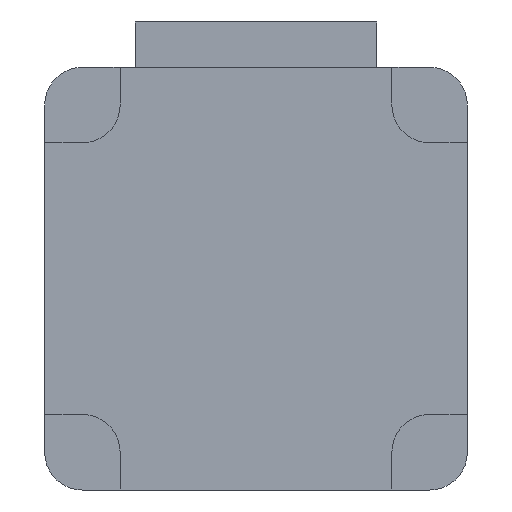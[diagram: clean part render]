
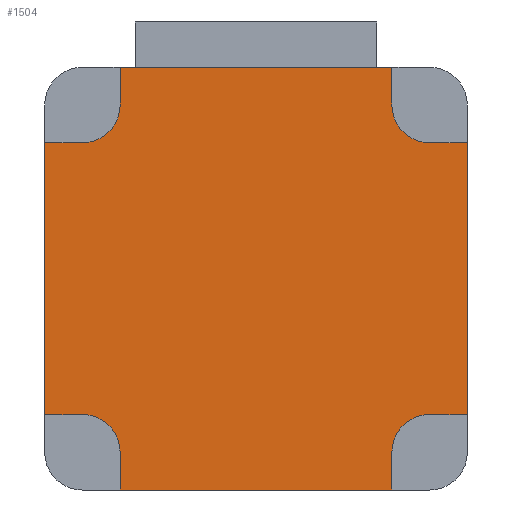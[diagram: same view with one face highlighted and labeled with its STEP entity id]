
A CAD part, front view. The second image highlights one B-rep face of the part: STEP entity #1504.
In plain terms, the highlighted planar face has unit normal (0, -1, 0).
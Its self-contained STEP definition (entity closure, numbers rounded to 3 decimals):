
#9 = VECTOR ( 'NONE', #521, 1000. ) ;
#13 = CARTESIAN_POINT ( 'NONE',  ( 0., -56., -28. ) ) ;
#22 = CARTESIAN_POINT ( 'NONE',  ( 2.5, -56., -5. ) ) ;
#30 = DIRECTION ( 'NONE',  ( -1., 0., 0. ) ) ;
#40 = LINE ( 'NONE', #823, #290 ) ;
#68 = LINE ( 'NONE', #13, #740 ) ;
#70 = CARTESIAN_POINT ( 'NONE',  ( 0., -56., -23. ) ) ;
#75 = LINE ( 'NONE', #445, #708 ) ;
#78 = DIRECTION ( 'NONE',  ( -1., 0., 0. ) ) ;
#82 = CARTESIAN_POINT ( 'NONE',  ( 28., -56., -23. ) ) ;
#96 = VECTOR ( 'NONE', #295, 1000. ) ;
#99 = DIRECTION ( 'NONE',  ( 0., 0., 1. ) ) ;
#103 = DIRECTION ( 'NONE',  ( 0., -1., 0. ) ) ;
#109 = CARTESIAN_POINT ( 'NONE',  ( 25.5, -56., -25.5 ) ) ;
#149 = VERTEX_POINT ( 'NONE', #1145 ) ;
#155 = LINE ( 'NONE', #1084, #1434 ) ;
#163 = VERTEX_POINT ( 'NONE', #1139 ) ;
#174 = ORIENTED_EDGE ( 'NONE', *, *, #885, .F. ) ;
#222 = ORIENTED_EDGE ( 'NONE', *, *, #924, .F. ) ;
#230 = CARTESIAN_POINT ( 'NONE',  ( 5., -56., -2.5 ) ) ;
#238 = ORIENTED_EDGE ( 'NONE', *, *, #775, .F. ) ;
#239 = DIRECTION ( 'NONE',  ( 0., 0., -1. ) ) ;
#245 = CARTESIAN_POINT ( 'NONE',  ( 23., -56., -25.5 ) ) ;
#248 = EDGE_LOOP ( 'NONE', ( #760, #676, #1228, #238, #495, #837, #1220, #292, #174, #397, #222, #443, #696, #735, #367, #351 ) ) ;
#250 = LINE ( 'NONE', #82, #889 ) ;
#257 = CARTESIAN_POINT ( 'NONE',  ( 28., -56., 0. ) ) ;
#288 = CIRCLE ( 'NONE', #576, 2.5 ) ;
#290 = VECTOR ( 'NONE', #831, 1000. ) ;
#292 = ORIENTED_EDGE ( 'NONE', *, *, #856, .F. ) ;
#295 = DIRECTION ( 'NONE',  ( 0., 0., -1. ) ) ;
#322 = EDGE_CURVE ( 'NONE', #725, #1356, #68, .T. ) ;
#332 = LINE ( 'NONE', #245, #1000 ) ;
#333 = LINE ( 'NONE', #798, #1638 ) ;
#337 = CARTESIAN_POINT ( 'NONE',  ( 5., -56., 0. ) ) ;
#342 = VERTEX_POINT ( 'NONE', #1567 ) ;
#351 = ORIENTED_EDGE ( 'NONE', *, *, #1027, .F. ) ;
#352 = LINE ( 'NONE', #928, #546 ) ;
#367 = ORIENTED_EDGE ( 'NONE', *, *, #1018, .F. ) ;
#383 = DIRECTION ( 'NONE',  ( 0., 0., 1. ) ) ;
#389 = DIRECTION ( 'NONE',  ( 0., -1., 0. ) ) ;
#396 = CARTESIAN_POINT ( 'NONE',  ( 2.5, -56., -25.5 ) ) ;
#397 = ORIENTED_EDGE ( 'NONE', *, *, #322, .F. ) ;
#404 = CARTESIAN_POINT ( 'NONE',  ( 0., -56., 0. ) ) ;
#443 = ORIENTED_EDGE ( 'NONE', *, *, #937, .F. ) ;
#445 = CARTESIAN_POINT ( 'NONE',  ( 5., -56., -28. ) ) ;
#448 = CARTESIAN_POINT ( 'NONE',  ( 25.5, -56., -23. ) ) ;
#456 = LINE ( 'NONE', #1040, #748 ) ;
#461 = DIRECTION ( 'NONE',  ( 0., 0., 1. ) ) ;
#495 = ORIENTED_EDGE ( 'NONE', *, *, #794, .F. ) ;
#496 = CARTESIAN_POINT ( 'NONE',  ( 5., -56., -28. ) ) ;
#521 = DIRECTION ( 'NONE',  ( 1., 0., 0. ) ) ;
#541 = EDGE_CURVE ( 'NONE', #1568, #149, #1447, .T. ) ;
#546 = VECTOR ( 'NONE', #934, 1000. ) ;
#566 = VERTEX_POINT ( 'NONE', #22 ) ;
#576 = AXIS2_PLACEMENT_3D ( 'NONE', #109, #103, #99 ) ;
#614 = VERTEX_POINT ( 'NONE', #1544 ) ;
#626 = AXIS2_PLACEMENT_3D ( 'NONE', #1460, #1452, #1397 ) ;
#657 = VERTEX_POINT ( 'NONE', #1340 ) ;
#676 = ORIENTED_EDGE ( 'NONE', *, *, #1577, .F. ) ;
#696 = ORIENTED_EDGE ( 'NONE', *, *, #1006, .F. ) ;
#708 = VECTOR ( 'NONE', #461, 1000. ) ;
#724 = EDGE_CURVE ( 'NONE', #800, #657, #155, .T. ) ;
#725 = VERTEX_POINT ( 'NONE', #1059 ) ;
#732 = EDGE_CURVE ( 'NONE', #1415, #895, #456, .T. ) ;
#735 = ORIENTED_EDGE ( 'NONE', *, *, #541, .F. ) ;
#740 = VECTOR ( 'NONE', #30, 1000. ) ;
#748 = VECTOR ( 'NONE', #1028, 1000. ) ;
#760 = ORIENTED_EDGE ( 'NONE', *, *, #724, .F. ) ;
#767 = AXIS2_PLACEMENT_3D ( 'NONE', #396, #389, #383 ) ;
#775 = EDGE_CURVE ( 'NONE', #566, #1415, #1004, .T. ) ;
#784 = CARTESIAN_POINT ( 'NONE',  ( 23., -56., 0. ) ) ;
#791 = DIRECTION ( 'NONE',  ( 1., 0., 0. ) ) ;
#794 = EDGE_CURVE ( 'NONE', #1144, #566, #333, .T. ) ;
#796 = EDGE_CURVE ( 'NONE', #342, #1477, #40, .T. ) ;
#798 = CARTESIAN_POINT ( 'NONE',  ( 0., -56., -5. ) ) ;
#800 = VERTEX_POINT ( 'NONE', #784 ) ;
#823 = CARTESIAN_POINT ( 'NONE',  ( 2.5, -56., -23. ) ) ;
#831 = DIRECTION ( 'NONE',  ( -1., 0., 0. ) ) ;
#837 = ORIENTED_EDGE ( 'NONE', *, *, #1049, .F. ) ;
#856 = EDGE_CURVE ( 'NONE', #163, #342, #1432, .T. ) ;
#874 = DIRECTION ( 'NONE',  ( 0., 0., 1. ) ) ;
#877 = CARTESIAN_POINT ( 'NONE',  ( 28., -56., -5. ) ) ;
#885 = EDGE_CURVE ( 'NONE', #1356, #163, #75, .T. ) ;
#886 = DIRECTION ( 'NONE',  ( 0., -1., 0. ) ) ;
#889 = VECTOR ( 'NONE', #78, 1000. ) ;
#893 = CARTESIAN_POINT ( 'NONE',  ( 2.5, -56., -2.5 ) ) ;
#895 = VERTEX_POINT ( 'NONE', #337 ) ;
#912 = AXIS2_PLACEMENT_3D ( 'NONE', #1513, #1369, #1275 ) ;
#924 = EDGE_CURVE ( 'NONE', #614, #725, #332, .T. ) ;
#928 = CARTESIAN_POINT ( 'NONE',  ( 0., -56., 0. ) ) ;
#934 = DIRECTION ( 'NONE',  ( 0., 0., 1. ) ) ;
#937 = EDGE_CURVE ( 'NONE', #1376, #614, #288, .T. ) ;
#1000 = VECTOR ( 'NONE', #239, 1000. ) ;
#1004 = CIRCLE ( 'NONE', #1299, 2.5 ) ;
#1006 = EDGE_CURVE ( 'NONE', #149, #1376, #250, .T. ) ;
#1018 = EDGE_CURVE ( 'NONE', #1225, #1568, #1636, .T. ) ;
#1027 = EDGE_CURVE ( 'NONE', #657, #1225, #1519, .T. ) ;
#1028 = DIRECTION ( 'NONE',  ( 0., 0., 1. ) ) ;
#1040 = CARTESIAN_POINT ( 'NONE',  ( 5., -56., -2.5 ) ) ;
#1049 = EDGE_CURVE ( 'NONE', #1477, #1144, #352, .T. ) ;
#1059 = CARTESIAN_POINT ( 'NONE',  ( 23., -56., -28. ) ) ;
#1067 = CARTESIAN_POINT ( 'NONE',  ( 25.5, -56., -5. ) ) ;
#1084 = CARTESIAN_POINT ( 'NONE',  ( 23., -56., 0. ) ) ;
#1112 = DIRECTION ( 'NONE',  ( 0., 0., -1. ) ) ;
#1136 = FACE_OUTER_BOUND ( 'NONE', #248, .T. ) ;
#1139 = CARTESIAN_POINT ( 'NONE',  ( 5., -56., -25.5 ) ) ;
#1144 = VERTEX_POINT ( 'NONE', #1334 ) ;
#1145 = CARTESIAN_POINT ( 'NONE',  ( 28., -56., -23. ) ) ;
#1177 = VECTOR ( 'NONE', #1600, 1000. ) ;
#1220 = ORIENTED_EDGE ( 'NONE', *, *, #796, .F. ) ;
#1225 = VERTEX_POINT ( 'NONE', #1067 ) ;
#1228 = ORIENTED_EDGE ( 'NONE', *, *, #732, .F. ) ;
#1275 = DIRECTION ( 'NONE',  ( 0., 0., -1. ) ) ;
#1299 = AXIS2_PLACEMENT_3D ( 'NONE', #893, #886, #874 ) ;
#1313 = LINE ( 'NONE', #404, #9 ) ;
#1334 = CARTESIAN_POINT ( 'NONE',  ( 0., -56., -5. ) ) ;
#1340 = CARTESIAN_POINT ( 'NONE',  ( 23., -56., -2.5 ) ) ;
#1356 = VERTEX_POINT ( 'NONE', #496 ) ;
#1369 = DIRECTION ( 'NONE',  ( 0., -1., 0. ) ) ;
#1376 = VERTEX_POINT ( 'NONE', #448 ) ;
#1397 = DIRECTION ( 'NONE',  ( 0., 0., 1. ) ) ;
#1415 = VERTEX_POINT ( 'NONE', #230 ) ;
#1432 = CIRCLE ( 'NONE', #767, 2.5 ) ;
#1434 = VECTOR ( 'NONE', #1112, 1000. ) ;
#1447 = LINE ( 'NONE', #257, #96 ) ;
#1452 = DIRECTION ( 'NONE',  ( 0., -1., 0. ) ) ;
#1460 = CARTESIAN_POINT ( 'NONE',  ( 25.5, -56., -2.5 ) ) ;
#1477 = VERTEX_POINT ( 'NONE', #70 ) ;
#1504 = ADVANCED_FACE ( 'NONE', ( #1136 ), #1607, .T. ) ;
#1513 = CARTESIAN_POINT ( 'NONE',  ( 0., -56., 0. ) ) ;
#1519 = CIRCLE ( 'NONE', #626, 2.5 ) ;
#1544 = CARTESIAN_POINT ( 'NONE',  ( 23., -56., -25.5 ) ) ;
#1567 = CARTESIAN_POINT ( 'NONE',  ( 2.5, -56., -23. ) ) ;
#1568 = VERTEX_POINT ( 'NONE', #877 ) ;
#1577 = EDGE_CURVE ( 'NONE', #895, #800, #1313, .T. ) ;
#1590 = CARTESIAN_POINT ( 'NONE',  ( 25.5, -56., -5. ) ) ;
#1600 = DIRECTION ( 'NONE',  ( 1., 0., 0. ) ) ;
#1607 = PLANE ( 'NONE',  #912 ) ;
#1636 = LINE ( 'NONE', #1590, #1177 ) ;
#1638 = VECTOR ( 'NONE', #791, 1000. ) ;
